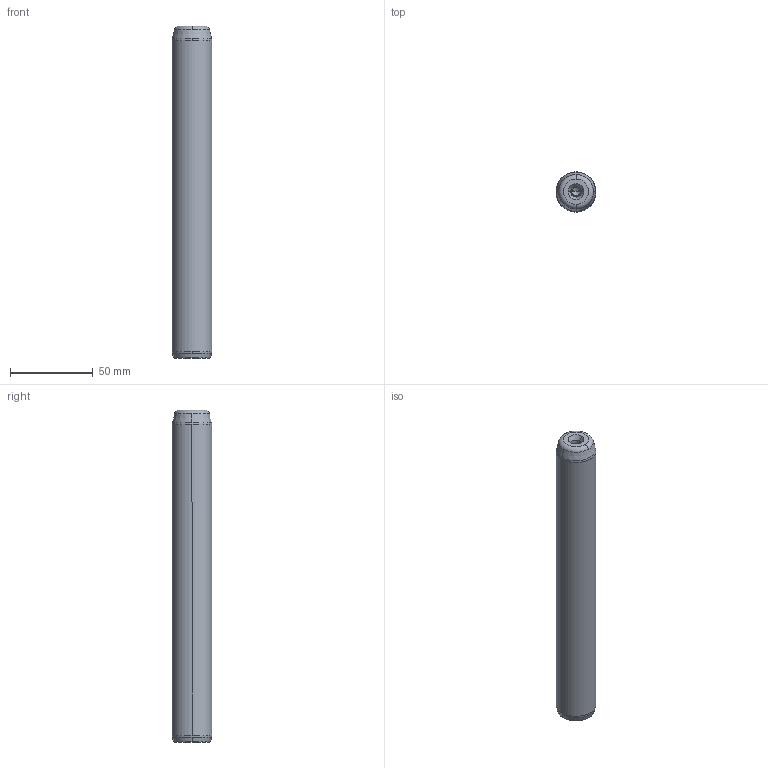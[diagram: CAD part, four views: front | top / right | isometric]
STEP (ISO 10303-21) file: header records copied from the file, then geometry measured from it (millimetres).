
FILE_DESCRIPTION((''),'2;1');
FILE_NAME('P10_024_200.stp','2008-12-23T14:35:54',(''),(''),'Mechanical Desktop 2009','Mechanical Desktop 2009',', , ');
FILE_SCHEMA(('CONFIG_CONTROL_DESIGN'));
Length unit declared in the file: millimetre
Products named in the file (5): Product; ProductAA; blmdl1; ProductA; blmdl1A
Assembly tree (2 placements, depth 3):
  Product
    ProductAA
      blmdl1
  ProductA
  blmdl1A
Bounding box: 24 x 24 x 200 mm (x, y, z)
Volume: 89144.6 mm3; surface area: 16016.4 mm2
Topology: 1 solids, 1 shells, 26 faces, 66 edges, 41 vertices
Faces by surface type: cone 10, torus 8, cylinder 6, plane 2
Entity records: 1012 total; most frequent: DIRECTION 170, CARTESIAN_POINT 134, ORIENTED_EDGE 128, AXIS2_PLACEMENT_3D 77, EDGE_CURVE 64, CIRCLE 48, VERTEX_POINT 41, EDGE_LOOP 27
